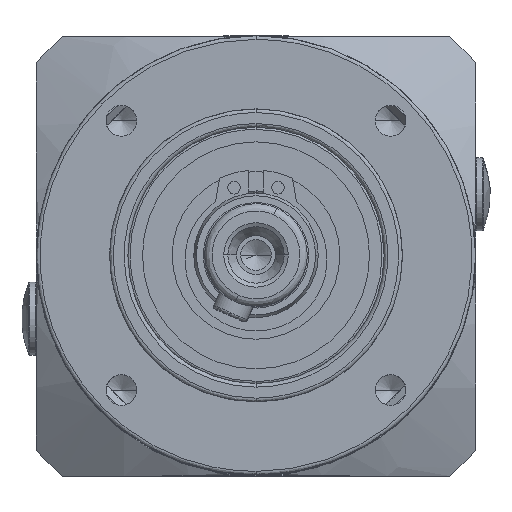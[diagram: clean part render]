
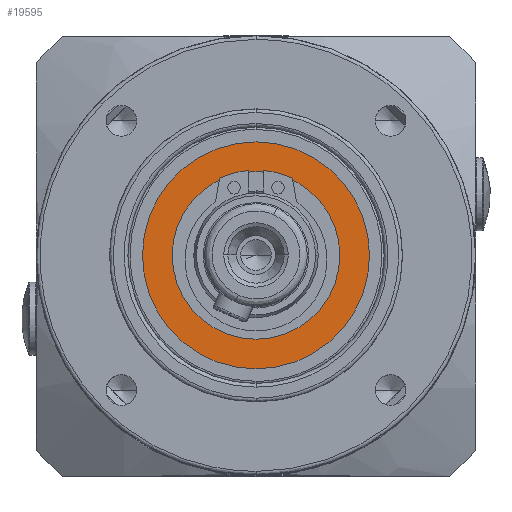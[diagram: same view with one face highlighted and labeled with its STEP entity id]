
A CAD part, top view. The second image highlights one B-rep face of the part: STEP entity #19595.
In plain terms, the highlighted planar face has unit normal (0, 0, 1).
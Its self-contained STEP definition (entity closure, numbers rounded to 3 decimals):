
#1289 = ORIENTED_EDGE ( 'NONE', *, *, #31964, .T. ) ;
#2442 = AXIS2_PLACEMENT_3D ( 'NONE', #23214, #31425, #20252 ) ;
#3125 = VERTEX_POINT ( 'NONE', #43456 ) ;
#4670 = FACE_BOUND ( 'NONE', #36234, .T. ) ;
#11583 = CARTESIAN_POINT ( 'NONE',  ( 4.292, -18.222, 101.664 ) ) ;
#12319 = EDGE_LOOP ( 'NONE', ( #43631, #1289 ) ) ;
#13308 = CIRCLE ( 'NONE', #49760, 11.45 ) ;
#15553 = FACE_OUTER_BOUND ( 'NONE', #12319, .T. ) ;
#16673 = CARTESIAN_POINT ( 'NONE',  ( -11.458, -6.772, 101.664 ) ) ;
#18935 = EDGE_CURVE ( 'NONE', #28666, #28722, #13308, .T. ) ;
#19127 = CIRCLE ( 'NONE', #35231, 11.45 ) ;
#19595 = ADVANCED_FACE ( 'NONE', ( #4670, #15553 ), #31764, .T. ) ;
#19973 = ORIENTED_EDGE ( 'NONE', *, *, #18935, .T. ) ;
#20019 = DIRECTION ( 'NONE',  ( 0., -1., 0. ) ) ;
#20041 = EDGE_CURVE ( 'NONE', #28722, #28666, #19127, .T. ) ;
#20252 = DIRECTION ( 'NONE',  ( 0., -1., 0. ) ) ;
#20428 = CARTESIAN_POINT ( 'NONE',  ( -11.458, -29.672, 101.664 ) ) ;
#22377 = DIRECTION ( 'NONE',  ( 0., -1., 0. ) ) ;
#22859 = AXIS2_PLACEMENT_3D ( 'NONE', #11583, #40720, #44442 ) ;
#23214 = CARTESIAN_POINT ( 'NONE',  ( -11.458, -18.222, 101.664 ) ) ;
#23919 = AXIS2_PLACEMENT_3D ( 'NONE', #27231, #51620, #20019 ) ;
#24773 = CIRCLE ( 'NONE', #23919, 15.75 ) ;
#27231 = CARTESIAN_POINT ( 'NONE',  ( -11.458, -18.222, 101.664 ) ) ;
#28666 = VERTEX_POINT ( 'NONE', #16673 ) ;
#28722 = VERTEX_POINT ( 'NONE', #20428 ) ;
#30470 = VERTEX_POINT ( 'NONE', #40270 ) ;
#31310 = DIRECTION ( 'NONE',  ( 0., 0., -1. ) ) ;
#31425 = DIRECTION ( 'NONE',  ( 0., 0., 1. ) ) ;
#31764 = PLANE ( 'NONE',  #22859 ) ;
#31964 = EDGE_CURVE ( 'NONE', #3125, #30470, #24773, .T. ) ;
#33796 = CARTESIAN_POINT ( 'NONE',  ( -11.458, -18.222, 101.664 ) ) ;
#34672 = ORIENTED_EDGE ( 'NONE', *, *, #20041, .T. ) ;
#35231 = AXIS2_PLACEMENT_3D ( 'NONE', #48005, #31310, #47476 ) ;
#36234 = EDGE_LOOP ( 'NONE', ( #34672, #19973 ) ) ;
#38111 = EDGE_CURVE ( 'NONE', #30470, #3125, #44761, .T. ) ;
#40270 = CARTESIAN_POINT ( 'NONE',  ( -11.458, -33.972, 101.664 ) ) ;
#40720 = DIRECTION ( 'NONE',  ( 0., 0., 1. ) ) ;
#43456 = CARTESIAN_POINT ( 'NONE',  ( -11.458, -2.472, 101.664 ) ) ;
#43631 = ORIENTED_EDGE ( 'NONE', *, *, #38111, .T. ) ;
#44442 = DIRECTION ( 'NONE',  ( 0., -1., 0. ) ) ;
#44761 = CIRCLE ( 'NONE', #2442, 15.75 ) ;
#47476 = DIRECTION ( 'NONE',  ( 0., -1., 0. ) ) ;
#48005 = CARTESIAN_POINT ( 'NONE',  ( -11.458, -18.222, 101.664 ) ) ;
#49760 = AXIS2_PLACEMENT_3D ( 'NONE', #33796, #49972, #22377 ) ;
#49972 = DIRECTION ( 'NONE',  ( 0., 0., -1. ) ) ;
#51620 = DIRECTION ( 'NONE',  ( 0., 0., 1. ) ) ;
